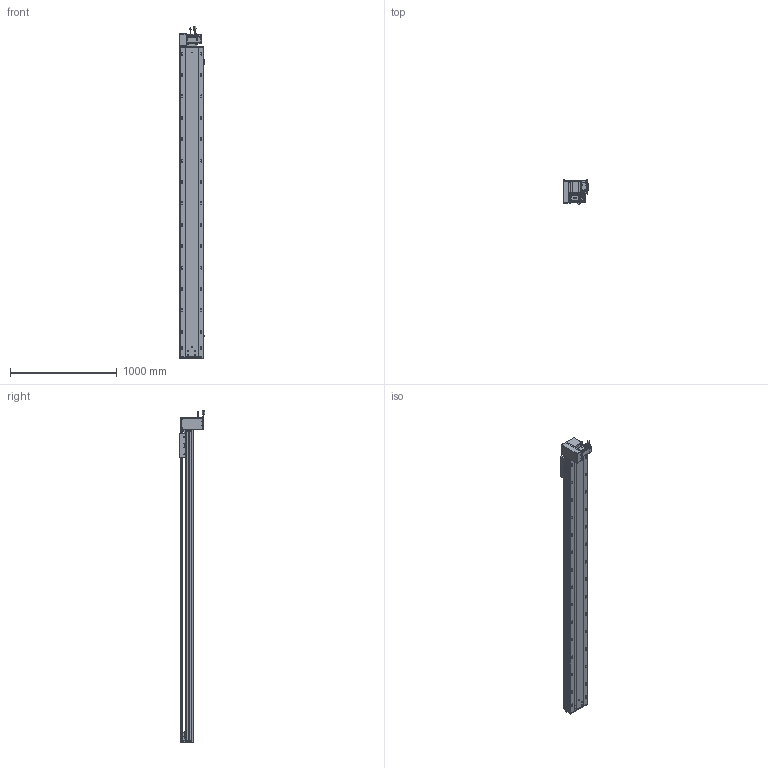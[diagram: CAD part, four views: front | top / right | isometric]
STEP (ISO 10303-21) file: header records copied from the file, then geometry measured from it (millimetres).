
FILE_DESCRIPTION (( 'STEP AP203' ), '1' );
FILE_NAME ('RY220-T-300-DL.SLDASM_2550.step', '2022-07-25T07:54:52', ( '' ), ( '' ), 'SwSTEP 2.0', 'SolidWorks 2016', '' );
FILE_SCHEMA (( 'CONFIG_CONTROL_DESIGN' ));
Length unit declared in the file: millimetre
Products named in the file (14): RY220-俋离672覜茼んえ; RY220-同步轮副支撑座6304×2; RY220-T-300-奻裔啣_2550; 覜茼ん672; RY220-T-湍謫欶(鍼踢); 滅袉蝶18-15; RY220圉猾敕々湍臏賑輸; RY220-T-蛌殏萇儂假蚾啣(750W); RY220-T-300-DL.SLDASM_2550; RY220-T菁釱-300_2550; 怢湛750W_ECMA-CX0807ES; RY220翋肮祭謫釱; 110A-T-肮祭謫釱傷裔; RY220翋肮祭謫裔啣
Assembly tree (18 placements, depth 2):
  RY220-T-300-DL.SLDASM_2550
    RY220-T菁釱-300_2550
    RY220翋肮祭謫釱
    覜茼ん672  x3
    RY220圉猾敕々湍臏賑輸
    RY220-T-300-奻裔啣_2550
    RY220-俋离672覜茼んえ
    滅袉蝶18-15  x3
    RY220翋肮祭謫裔啣  x2
    110A-T-肮祭謫釱傷裔
    怢湛750W_ECMA-CX0807ES
    RY220-T-湍謫欶(鍼踢)
    RY220-T-蛌殏萇儂假蚾啣(750W)
    RY220-同步轮副支撑座6304×2
Bounding box: 239.7 x 240.74 x 3103.27 mm (x, y, z)
Volume: 22291616.4 mm3; surface area: 6849636.2 mm2
Topology: 19 solids, 19 shells, 2936 faces, 8119 edges, 5096 vertices
Faces by surface type: cylinder 1436, plane 1069, cone 349, bspline 56, sphere 16, torus 10
Entity records: 97891 total; most frequent: CARTESIAN_POINT 27671, ORIENTED_EDGE 14522, DIRECTION 13972, EDGE_CURVE 7261, AXIS2_PLACEMENT_3D 5026, VERTEX_POINT 4720, LINE 3920, VECTOR 3920
